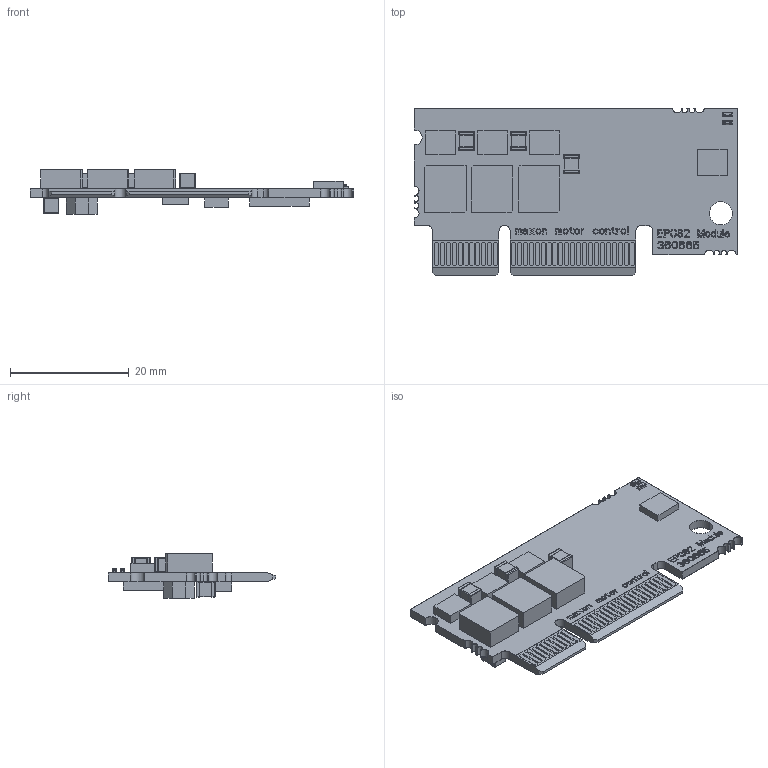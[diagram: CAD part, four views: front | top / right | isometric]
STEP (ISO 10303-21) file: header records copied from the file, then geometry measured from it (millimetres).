
FILE_DESCRIPTION((''),'2;1');
FILE_NAME('EPOS2-MODULE_ASM','2014-01-17T',('mmagmma'),(''),'PRO/ENGINEER BY PARAMETRIC TECHNOLOGY CORPORATION, 2013130','PRO/ENGINEER BY PARAMETRIC TECHNOLOGY CORPORATION, 2013130','');
FILE_SCHEMA(('CONFIG_CONTROL_DESIGN','SHAPE_APPEARANCE_LAYERS_GROUPS'));
Products named in the file (16): EPOS2-MODULE_PCB; EPOS2-MODULE_PCB_SILK_T; EPOS2-MODULE_PCB_SILK_B; CON-PAD; LED_BASE; LED_GREEN; LED_0603_GREEN_ASM; LED_RED; LED_0603_RED_ASM; CAP_C1210; IC_SO-08; IND_7X7X3-2; IC_SSO-16; IND_5-2X5-2X2-8; IC_BGA-10X10; EPOS2-MODULE_ASM
Assembly tree (88 placements, depth 3):
  EPOS2-MODULE_ASM
    EPOS2-MODULE_PCB
    EPOS2-MODULE_PCB_SILK_T
    EPOS2-MODULE_PCB_SILK_B
    CON-PAD  x64
    LED_0603_GREEN_ASM
      LED_BASE
      LED_GREEN
    LED_0603_RED_ASM
      LED_BASE
      LED_RED
    CAP_C1210  x4
    IC_SO-08  x4
    IND_7X7X3-2  x3
    IC_SSO-16  x2
    IND_5-2X5-2X2-8
    IC_BGA-10X10
Bounding box: 54.5 x 28.2 x 7.57 mm (x, y, z)
Volume: 3148 mm3; surface area: 9862.8 mm2
Topology: 101 solids, 101 shells, 2932 faces, 7910 edges, 5244 vertices
Faces by surface type: plane 2703, cylinder 189, sphere 40
Entity records: 86624 total; most frequent: CARTESIAN_POINT 12312, ORIENTED_EDGE 11716, DIRECTION 10372, PRESENTATION_STYLE_ASSIGNMENT 5995, STYLED_ITEM 5869, EDGE_CURVE 5858, CURVE_STYLE 5822, VECTOR 5636
